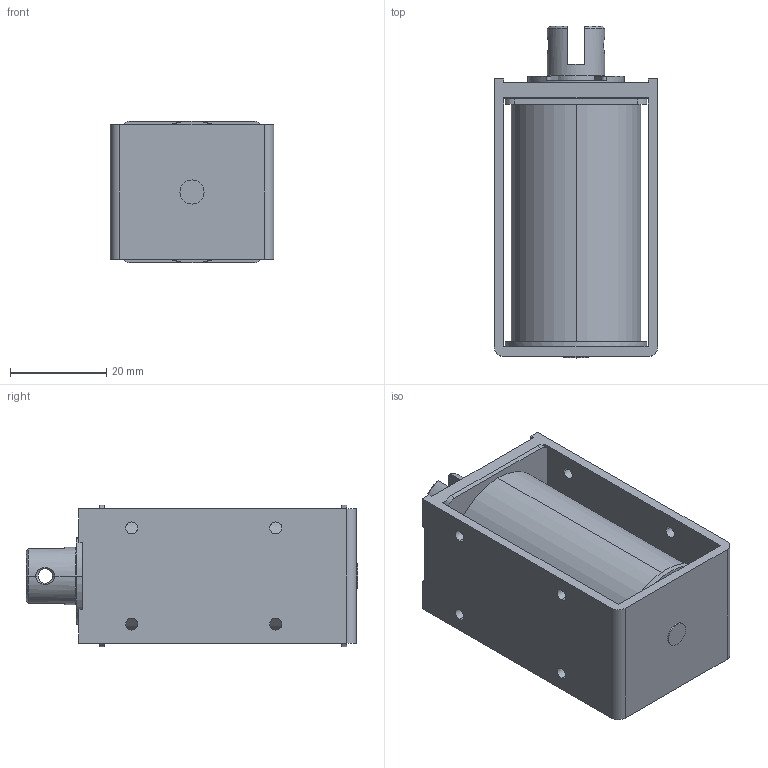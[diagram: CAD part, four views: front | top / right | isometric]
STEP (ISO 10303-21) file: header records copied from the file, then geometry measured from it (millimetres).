
FILE_DESCRIPTION (( 'STEP AP203' ), '1' );
FILE_NAME ('w_ca1257.STEP', '2014-07-14T02:56:12', ( 'jiba' ), ( 'Hewlett-Packard Company' ), 'SwSTEP 2.0', 'SolidWorks 2014', '' );
FILE_SCHEMA (( 'CONFIG_CONTROL_DESIGN' ));
Length unit declared in the file: millimetre
Products named in the file (3): Part29^w_ca1257; Part1^w_ca1257_pl; w_ca1257
Assembly tree (2 placements, depth 2):
  w_ca1257
    Part29^w_ca1257
    Part1^w_ca1257_pl
Bounding box: 34 x 69.1 x 29.5 mm (x, y, z)
Volume: 41687.1 mm3; surface area: 21045.7 mm2
Topology: 2 solids, 2 shells, 129 faces, 347 edges, 223 vertices
Faces by surface type: cylinder 61, plane 61, cone 7
Entity records: 4527 total; most frequent: CARTESIAN_POINT 808, DIRECTION 760, ORIENTED_EDGE 694, EDGE_CURVE 347, AXIS2_PLACEMENT_3D 287, VERTEX_POINT 223, VECTOR 186, LINE 186
